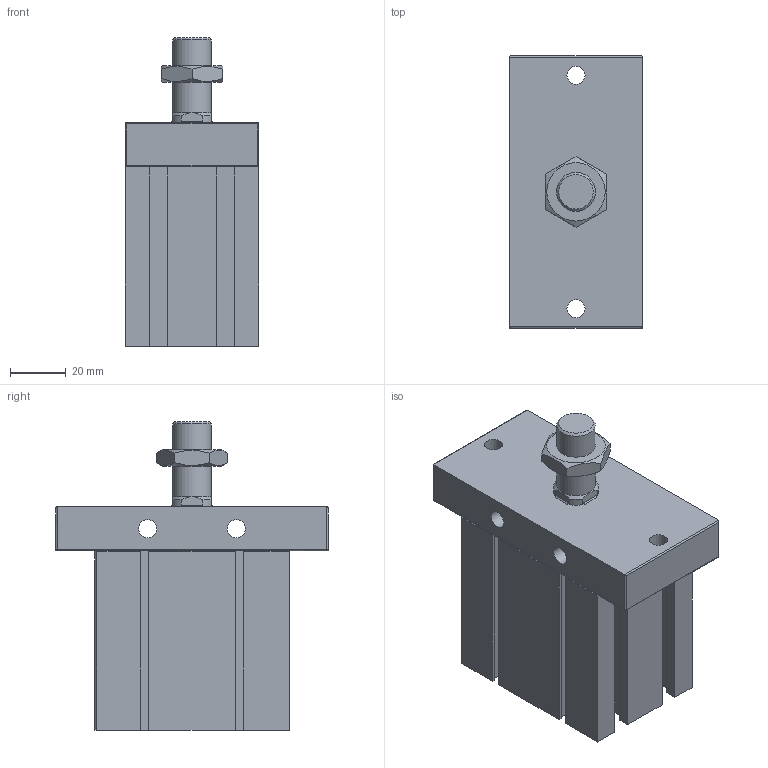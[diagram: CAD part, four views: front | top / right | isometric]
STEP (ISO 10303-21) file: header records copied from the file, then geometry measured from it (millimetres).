
FILE_DESCRIPTION((''),'2;1');
FILE_NAME('J:\3D電子目錄\氣缸\ND\ND\ND40-FB\ND40x30-FB.stp','2008-03-13T09:20:45',('66-2f-008'),(''),'Autodesk Inventor 11','Autodesk Inventor 11','');
FILE_SCHEMA(('AUTOMOTIVE_DESIGN { 1 0 10303 214 1 1 1 1 }'));
Length unit declared in the file: millimetre
Products named in the file (1): ND40-FB
Bounding box: 48 x 98 x 111 mm (x, y, z)
Volume: 267067.9 mm3; surface area: 44697.1 mm2
Topology: 2 solids, 2 shells, 153 faces, 391 edges, 251 vertices
Faces by surface type: plane 99, cylinder 23, cone 14, bspline 14, sphere 2, torus 1
Full cylindrical faces by diameter (mm): 2.2 x2, 6.5 x2, 14 x2, 29 x1, 42 x1, 44.5 x1
Entity records: 4520 total; most frequent: CARTESIAN_POINT 976, ORIENTED_EDGE 708, DIRECTION 698, EDGE_CURVE 354, VECTOR 250, LINE 250, VERTEX_POINT 246, AXIS2_PLACEMENT_3D 224
